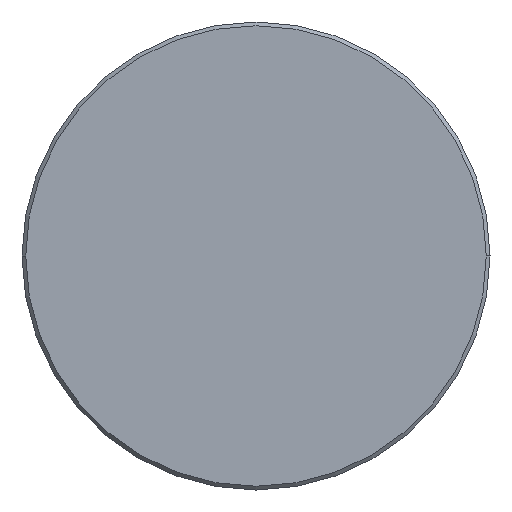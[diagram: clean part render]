
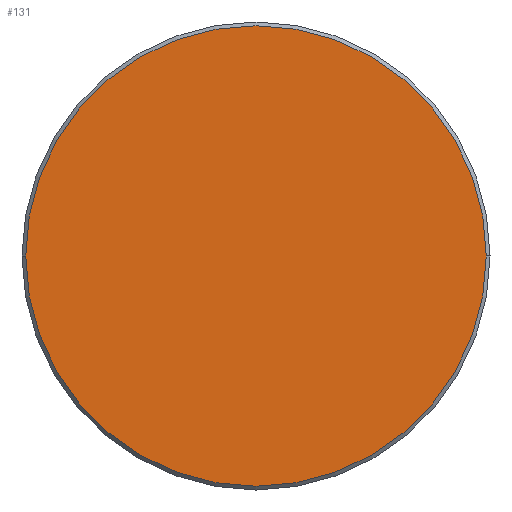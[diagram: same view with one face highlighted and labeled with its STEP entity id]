
A CAD part, left-side view. The second image highlights one B-rep face of the part: STEP entity #131.
In plain terms, the highlighted planar face has unit normal (-1, 0, 0).
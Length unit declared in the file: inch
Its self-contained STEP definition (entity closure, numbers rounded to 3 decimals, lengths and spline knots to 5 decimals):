
#27 = CARTESIAN_POINT ( 'NONE',  ( 0., 0., 0. ) ) ;
#52 = DIRECTION ( 'NONE',  ( 0., -1., 0. ) ) ;
#53 = PLANE ( 'NONE',  #372 ) ;
#58 = CARTESIAN_POINT ( 'NONE',  ( 0., 0.246, 0. ) ) ;
#68 = CIRCLE ( 'NONE', #187, 0.246 ) ;
#69 = EDGE_CURVE ( 'NONE', #211, #323, #341, .T. ) ;
#74 = DIRECTION ( 'NONE',  ( 0., -1., 0. ) ) ;
#81 = CARTESIAN_POINT ( 'NONE',  ( 0., 0., 0. ) ) ;
#85 = AXIS2_PLACEMENT_3D ( 'NONE', #81, #168, #52 ) ;
#131 = ADVANCED_FACE ( 'NONE', ( #194 ), #53, .T. ) ;
#150 = ORIENTED_EDGE ( 'NONE', *, *, #69, .T. ) ;
#160 = ORIENTED_EDGE ( 'NONE', *, *, #172, .T. ) ;
#168 = DIRECTION ( 'NONE',  ( -1., 0., 0. ) ) ;
#172 = EDGE_CURVE ( 'NONE', #323, #211, #68, .T. ) ;
#173 = CARTESIAN_POINT ( 'NONE',  ( 0., 0., 0. ) ) ;
#187 = AXIS2_PLACEMENT_3D ( 'NONE', #173, #257, #74 ) ;
#194 = FACE_OUTER_BOUND ( 'NONE', #214, .T. ) ;
#211 = VERTEX_POINT ( 'NONE', #256 ) ;
#214 = EDGE_LOOP ( 'NONE', ( #160, #150 ) ) ;
#255 = DIRECTION ( 'NONE',  ( -1., 0., 0. ) ) ;
#256 = CARTESIAN_POINT ( 'NONE',  ( 0., -0.246, 0. ) ) ;
#257 = DIRECTION ( 'NONE',  ( -1., 0., 0. ) ) ;
#275 = DIRECTION ( 'NONE',  ( 0., -1., 0. ) ) ;
#323 = VERTEX_POINT ( 'NONE', #58 ) ;
#341 = CIRCLE ( 'NONE', #85, 0.246 ) ;
#372 = AXIS2_PLACEMENT_3D ( 'NONE', #27, #255, #275 ) ;
